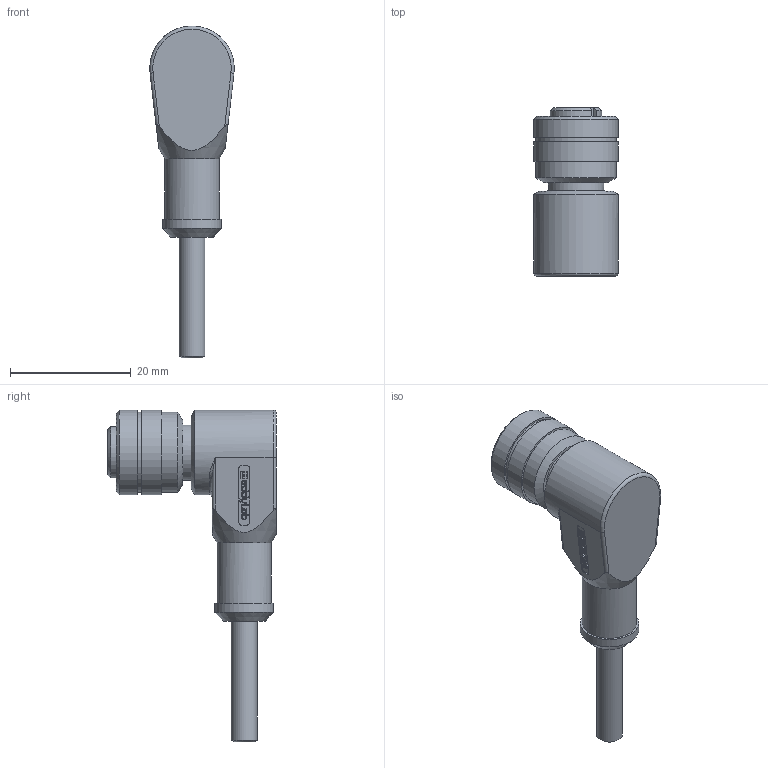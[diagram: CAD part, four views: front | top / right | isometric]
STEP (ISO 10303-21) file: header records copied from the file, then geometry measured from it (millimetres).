
FILE_DESCRIPTION( ( 'Unknown' ), '1' );
FILE_NAME( 'N:/Engineering/CAD/Kabel_Stecker/M12/K4PxM-SW-M12.stp', 'Unknown', ( 'Unknown' ), ( 'Unknown' ), 'PSStep 17.0.49', 'Unknown', ' ' );
FILE_SCHEMA( ( 'AUTOMOTIVE_DESIGN { 1 0 10303 214 1 1 1 1 }' ) );
Length unit declared in the file: millimetre
Products named in the file (1): 1
Bounding box: 14 x 27.9 x 55 mm (x, y, z)
Volume: 5746.2 mm3; surface area: 3717.4 mm2
Topology: 1 solids, 1 shells, 496 faces, 1317 edges, 875 vertices
Faces by surface type: plane 344, cylinder 133, cone 11, bspline 5, torus 3
Full cylindrical faces by diameter (mm): 1 x4, 4.3 x1, 9 x1, 9.2 x1, 9.4 x1, 9.7 x1, 12 x1, 12.5 x1, 13.3 x2, 14 x3
Entity records: 22190 total; most frequent: CARTESIAN_POINT 5839, ORIENTED_EDGE 2550, DIRECTION 2510, EDGE_CURVE 1275, LINE 972, VECTOR 972, VERTEX_POINT 863, AXIS2_PLACEMENT_3D 769
